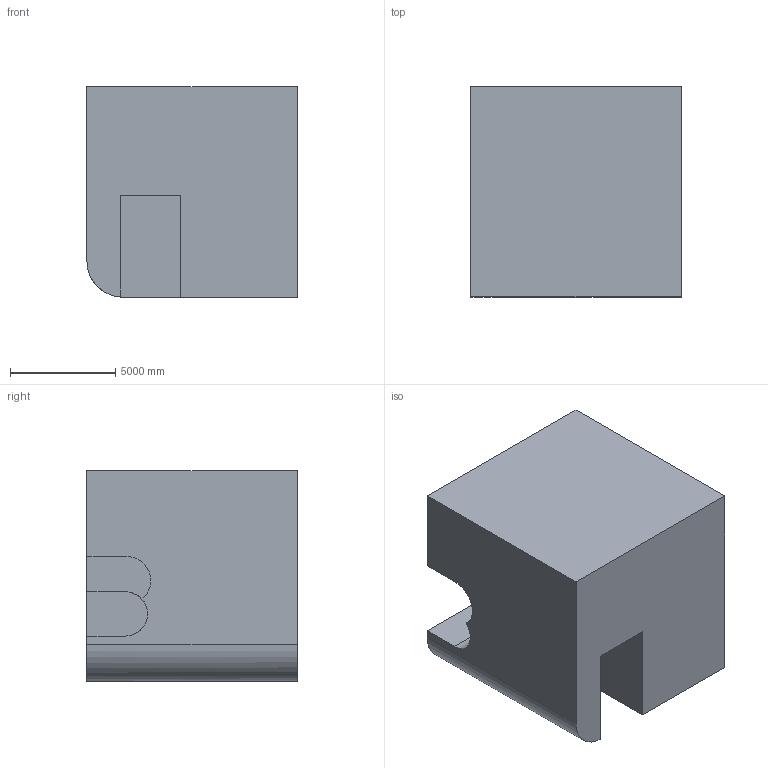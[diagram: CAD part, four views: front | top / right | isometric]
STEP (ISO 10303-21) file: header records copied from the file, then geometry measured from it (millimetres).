
FILE_DESCRIPTION (( 'STEP AP203' ), '1' );
FILE_NAME ('407.STEP', '2022-07-29T11:09:29', ( 'user' ), ( '' ), 'SwSTEP 2.0', 'SolidWorks 2021', '' );
FILE_SCHEMA (( 'CONFIG_CONTROL_DESIGN' ));
Length unit declared in the file: centimetre
Products named in the file (1): 407
Bounding box: 10000 x 10000 x 10000 mm (x, y, z)
Volume: 899451817520.1 mm3; surface area: 649509807.2 mm2
Topology: 1 solids, 1 shells, 22 faces, 60 edges, 40 vertices
Faces by surface type: plane 17, cylinder 5
Entity records: 773 total; most frequent: CARTESIAN_POINT 123, ORIENTED_EDGE 120, DIRECTION 118, EDGE_CURVE 60, LINE 48, VECTOR 48, VERTEX_POINT 40, AXIS2_PLACEMENT_3D 35
